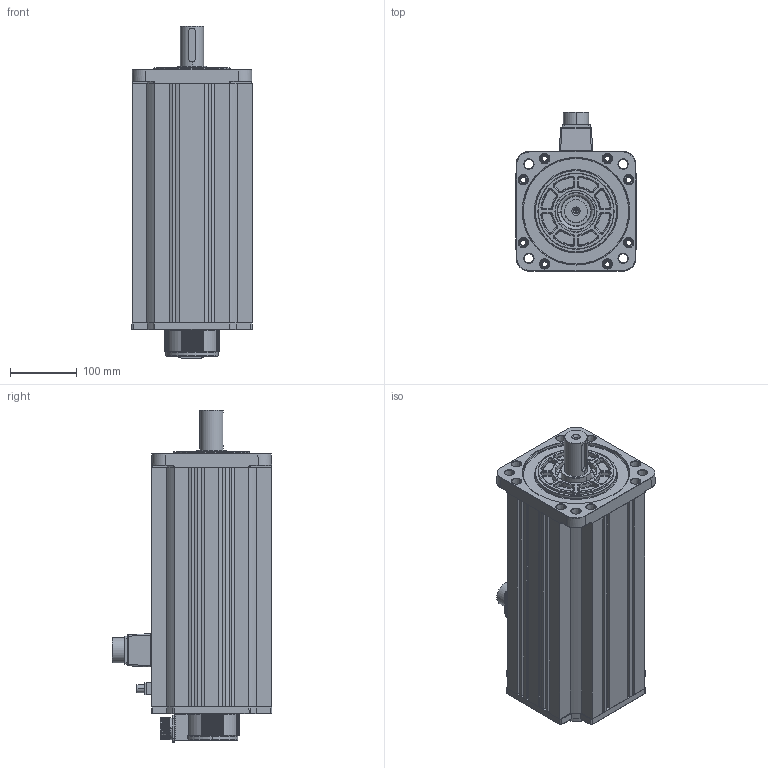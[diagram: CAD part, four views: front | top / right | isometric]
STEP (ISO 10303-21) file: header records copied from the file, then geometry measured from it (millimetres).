
FILE_DESCRIPTION (( 'STEP AP203' ), '1' );
FILE_NAME ('180zf11kw1500r.STEP', '2024-09-23T08:44:25', ( 'MicroSoft' ), ( 'MicroSoft' ), 'SwSTEP 2.0', 'SolidWorks 2020', '' );
FILE_SCHEMA (( 'CONFIG_CONTROL_DESIGN' ));
Length unit declared in the file: millimetre
Products named in the file (17): Z180-01-16(堤盄碟); Z180-01-04(180-5.5bk儂褲)_11kw秶雄; 秶雄ん菜遴; GB╱T 276-2013[两面带密封圈（非接触式）的深沟球轴承[60000-2RZ]6206-2RZ]_6206-2RZ; Z130A-01-03(编码器后罩壳封盖）; 180zf11kw1500r; H12秶雄ん菁釱; Z航插15芯（公头电机端）28; Z130A-01-02(编码器后罩壳）; 180ヶ粣創; 180陔癹弇釱(1); 180陔癹弇釱躇猾菜2(1); 180前端盖确定版(1)X; 180伺服电机全系类BLC制动转子轴_3KW; 180-4郋萇埭; 180綴傷裔X 蜊(1); 180呿蹋晤鎢ん欶褲
Assembly tree (16 placements, depth 3):
  180zf11kw1500r
    180ヶ粣創
    180前端盖确定版(1)X
    180綴傷裔X 蜊(1)
    180呿蹋晤鎢ん欶褲
      Z130A-01-02(编码器后罩壳）
    Z航插15芯（公头电机端）28
    Z130A-01-03(编码器后罩壳封盖）
    Z180-01-04(180-5.5bk儂褲)_11kw秶雄
    Z180-01-16(堤盄碟)
    180-4郋萇埭
    H12秶雄ん菁釱
    秶雄ん菜遴
    180陔癹弇釱(1)
    180陔癹弇釱躇猾菜2(1)
    180伺服电机全系类BLC制动转子轴_3KW
    GB╱T 276-2013[两面带密封圈（非接触式）的深沟球轴承[60000-2RZ]6206-2RZ]_6206-2RZ
Bounding box: 180.33 x 239.17 x 498 mm (x, y, z)
Volume: 3242226.3 mm3; surface area: 989925.4 mm2
Topology: 30 solids, 30 shells, 3647 faces, 8767 edges, 5187 vertices
Faces by surface type: cylinder 1129, plane 746, bspline 678, torus 548, cone 304, sphere 242
Entity records: 136412 total; most frequent: CARTESIAN_POINT 54468, ORIENTED_EDGE 16920, DIRECTION 16787, EDGE_CURVE 8460, AXIS2_PLACEMENT_3D 6999, VERTEX_POINT 5088, EDGE_LOOP 4034, CIRCLE 4010
